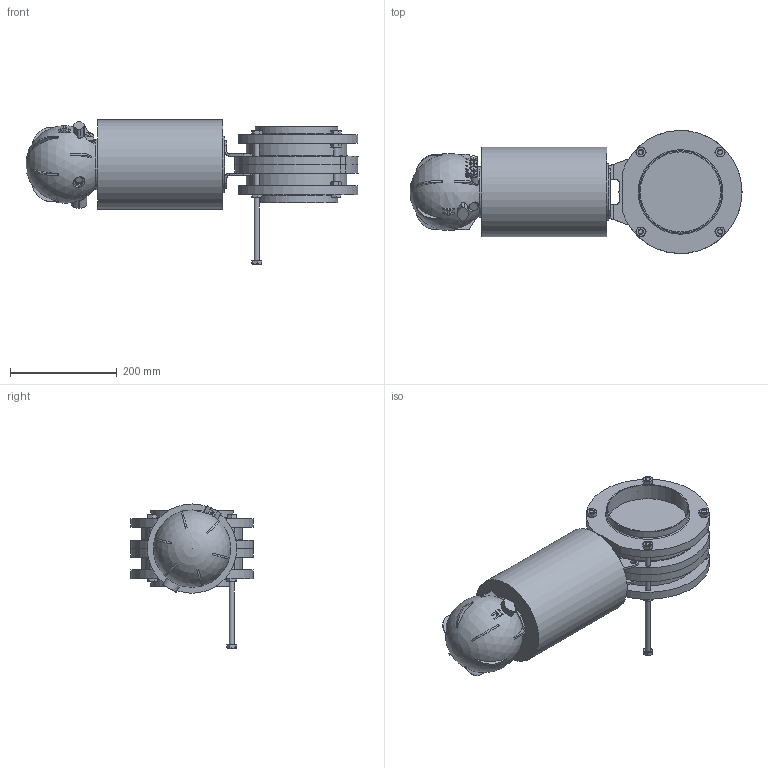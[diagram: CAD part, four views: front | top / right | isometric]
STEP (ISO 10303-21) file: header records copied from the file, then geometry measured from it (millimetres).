
FILE_DESCRIPTION(/* description */ ('ZVF V.FARF.DN150(154X2)WAF4 MACH156 SENC 316 EPDM'),/* implementation_level */ '2;1');
FILE_NAME(/* name */ 'BEAAC6150BEBK-00^SAGOMA.step',/* time_stamp */ '2026-09-24T09:29:18+02:00',/* author */ (''),/* organization */ (''),/* preprocessor_version */ 'ST-DEVELOPER v20.1',/* originating_system */ 'Autodesk Inventor 2026',/* authorisation */ '');
FILE_SCHEMA (('CONFIG_CONTROL_DESIGN'));
Length unit declared in the file: millimetre
Products named in the file (8): BEAAC6150BEBK; MEZZO-COR-DN150-WAFER-4; FLANGIA-DN154x2-WAFER-4; TOA400150AAA; MACH156; 3DAAGIOTAE005; UNI 5738 - M10 x 1,25 x 120; UNI 5588 - M10
Assembly tree (21 placements, depth 2):
  BEAAC6150BEBK
    FLANGIA-DN154x2-WAFER-4  x2
    MEZZO-COR-DN150-WAFER-4  x2
    UNI 5738 - M10 x 1,25 x 120  x5
    UNI 5588 - M10  x8
    TOA400150AAA  x2
    MACH156
    3DAAGIOTAE005
Bounding box: 620.8 x 229.8 x 269.5 mm (x, y, z)
Volume: 10288287.4 mm3; surface area: 696501.6 mm2
Topology: 21 solids, 21 shells, 783 faces, 1905 edges, 1208 vertices
Faces by surface type: plane 456, cone 152, cylinder 146, sphere 13, bspline 12, torus 4
Full cylindrical faces by diameter (mm): 4 x1, 8 x4, 8.376 x8, 10 x5, 10.5 x20, 11 x4, 12.6 x1, 13 x3, 14 x4, 16.2 x5, 18 x1, 19 x1, 95 x1, 106 x1, 150 x2, 154 x2, 167 x1, 188 x2
Entity records: 15955 total; most frequent: CARTESIAN_POINT 3687, DIRECTION 2667, ORIENTED_EDGE 2414, EDGE_CURVE 1207, AXIS2_PLACEMENT_3D 1072, VERTEX_POINT 789, CIRCLE 578, EDGE_LOOP 550
